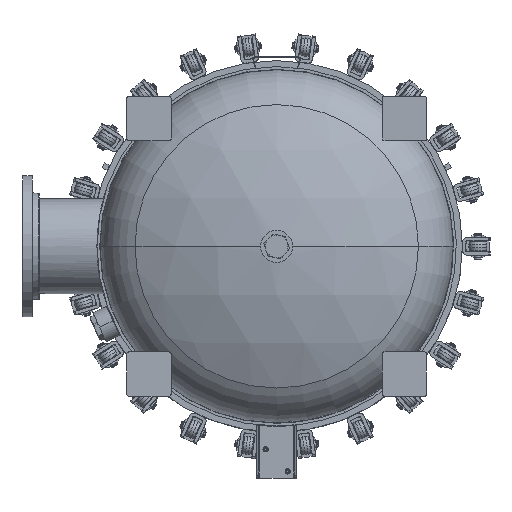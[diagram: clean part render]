
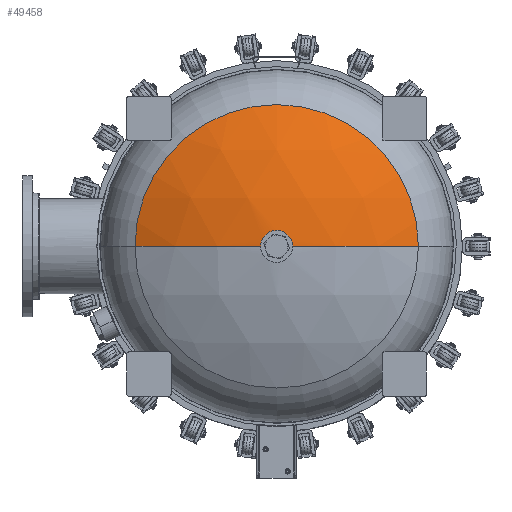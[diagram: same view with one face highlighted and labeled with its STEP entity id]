
A CAD part, front view. The second image highlights one B-rep face of the part: STEP entity #49458.
In plain terms, the highlighted spherical face has radius 912.551 mm.
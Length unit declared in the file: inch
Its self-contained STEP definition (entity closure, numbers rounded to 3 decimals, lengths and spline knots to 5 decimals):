
#1927 = CARTESIAN_POINT ( 'NONE',  ( -1.8125, -57.57818, 0. ) ) ;
#3783 = CARTESIAN_POINT ( 'NONE',  ( 0., -21.69674, 0. ) ) ;
#7015 = CIRCLE ( 'NONE', #74498, 1.8125 ) ;
#9481 = CARTESIAN_POINT ( 'NONE',  ( 0., -57.57818, 1.8125 ) ) ;
#11110 = VERTEX_POINT ( 'NONE', #9481 ) ;
#11112 = AXIS2_PLACEMENT_3D ( 'NONE', #3783, #98724, #22591 ) ;
#11151 = DIRECTION ( 'NONE',  ( 0., 0., 1. ) ) ;
#14819 = AXIS2_PLACEMENT_3D ( 'NONE', #91600, #109303, #64149 ) ;
#16207 = CIRCLE ( 'NONE', #39920, 1.8125 ) ;
#16734 = DIRECTION ( 'NONE',  ( 0., -1., 0. ) ) ;
#20135 = ORIENTED_EDGE ( 'NONE', *, *, #61733, .F. ) ;
#21349 = CIRCLE ( 'NONE', #81617, 35.92719 ) ;
#21581 = EDGE_CURVE ( 'NONE', #11110, #30816, #7015, .T. ) ;
#21825 = CIRCLE ( 'NONE', #91242, 16.06855 ) ;
#22591 = DIRECTION ( 'NONE',  ( -1., 0., 0. ) ) ;
#30816 = VERTEX_POINT ( 'NONE', #1927 ) ;
#31007 = ORIENTED_EDGE ( 'NONE', *, *, #48262, .T. ) ;
#39897 = DIRECTION ( 'NONE',  ( 1., 0., 0. ) ) ;
#39920 = AXIS2_PLACEMENT_3D ( 'NONE', #44696, #16734, #87068 ) ;
#41024 = DIRECTION ( 'NONE',  ( 0., -1., 0. ) ) ;
#41893 = CARTESIAN_POINT ( 'NONE',  ( -16.06855, -53.83028, 0. ) ) ;
#44696 = CARTESIAN_POINT ( 'NONE',  ( 0., -57.57818, 0. ) ) ;
#48262 = EDGE_CURVE ( 'NONE', #79229, #103961, #21825, .T. ) ;
#48629 = FACE_OUTER_BOUND ( 'NONE', #68097, .T. ) ;
#49458 = ADVANCED_FACE ( 'Defeatured_2253', ( #48629 ), #65243, .T. ) ;
#53909 = EDGE_CURVE ( 'NONE', #103961, #30816, #21349, .T. ) ;
#54595 = CARTESIAN_POINT ( 'NONE',  ( 0., -57.57818, 0. ) ) ;
#56074 = ORIENTED_EDGE ( 'NONE', *, *, #53909, .T. ) ;
#56114 = CARTESIAN_POINT ( 'NONE',  ( 0., -21.69674, 0. ) ) ;
#60409 = CARTESIAN_POINT ( 'NONE',  ( 1.8125, -57.57818, 0. ) ) ;
#61733 = EDGE_CURVE ( 'NONE', #79229, #93722, #65869, .T. ) ;
#64149 = DIRECTION ( 'NONE',  ( -1., 0., 0. ) ) ;
#65243 = SPHERICAL_SURFACE ( 'NONE', #14819, 35.92719 ) ;
#65869 = CIRCLE ( 'NONE', #11112, 35.92719 ) ;
#66422 = ORIENTED_EDGE ( 'NONE', *, *, #21581, .F. ) ;
#68097 = EDGE_LOOP ( 'NONE', ( #20135, #31007, #56074, #66422, #89248 ) ) ;
#70801 = CARTESIAN_POINT ( 'NONE',  ( 16.06855, -53.83028, 0. ) ) ;
#74498 = AXIS2_PLACEMENT_3D ( 'NONE', #54595, #80905, #11151 ) ;
#75364 = CARTESIAN_POINT ( 'NONE',  ( 0., -53.83028, 0. ) ) ;
#79229 = VERTEX_POINT ( 'NONE', #70801 ) ;
#80905 = DIRECTION ( 'NONE',  ( 0., -1., 0. ) ) ;
#81617 = AXIS2_PLACEMENT_3D ( 'NONE', #56114, #99580, #81876 ) ;
#81876 = DIRECTION ( 'NONE',  ( 1., 0., 0. ) ) ;
#84861 = EDGE_CURVE ( 'NONE', #93722, #11110, #16207, .T. ) ;
#87068 = DIRECTION ( 'NONE',  ( 0., 0., 1. ) ) ;
#89248 = ORIENTED_EDGE ( 'NONE', *, *, #84861, .F. ) ;
#91242 = AXIS2_PLACEMENT_3D ( 'NONE', #75364, #41024, #39897 ) ;
#91600 = CARTESIAN_POINT ( 'NONE',  ( 0., -21.69674, 0. ) ) ;
#93722 = VERTEX_POINT ( 'NONE', #60409 ) ;
#98724 = DIRECTION ( 'NONE',  ( 0., 0., -1. ) ) ;
#99580 = DIRECTION ( 'NONE',  ( 0., 0., 1. ) ) ;
#103961 = VERTEX_POINT ( 'NONE', #41893 ) ;
#109303 = DIRECTION ( 'NONE',  ( 0., 0., -1. ) ) ;
